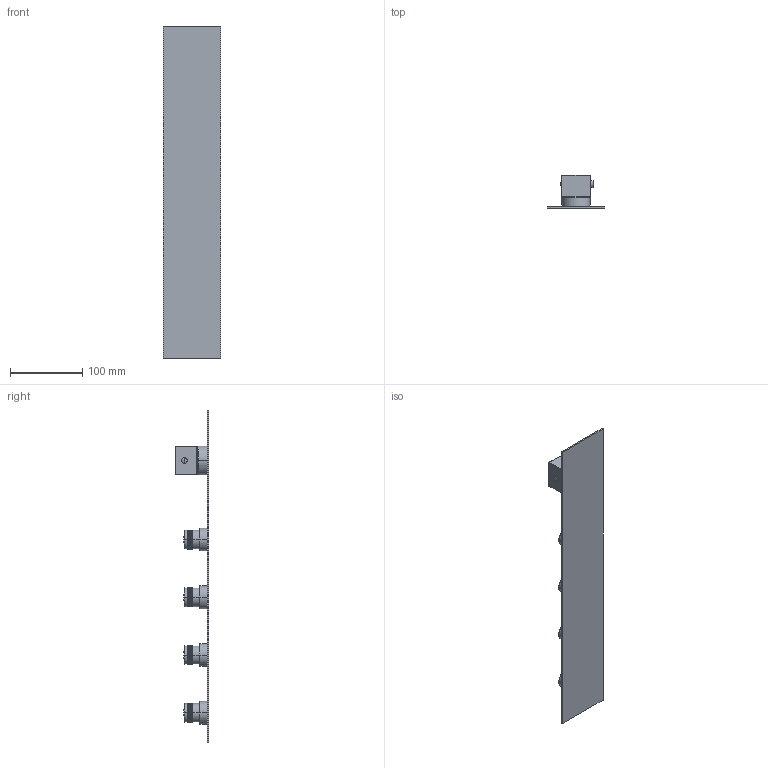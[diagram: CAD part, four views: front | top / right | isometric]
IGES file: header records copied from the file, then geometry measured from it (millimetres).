
Start section:  PTC IGES file: 35600v4.igs
Global section: file name: 35600v4.igs; native system: Creo Parametric by PTC Inc.; preprocessor: 2022014; author: carloff; organization: Unknown; date: 20260305.093319; units: millimetre
Bounding box: 80 x 46.3 x 460 mm (x, y, z)
Surface area: 95399.1 mm2 (no closed solid volume)
Topology: 0 solids, 0 shells, 6804 faces, 33030 edges, 33020 vertices
Faces by surface type: bspline 5378, revolution 1426
